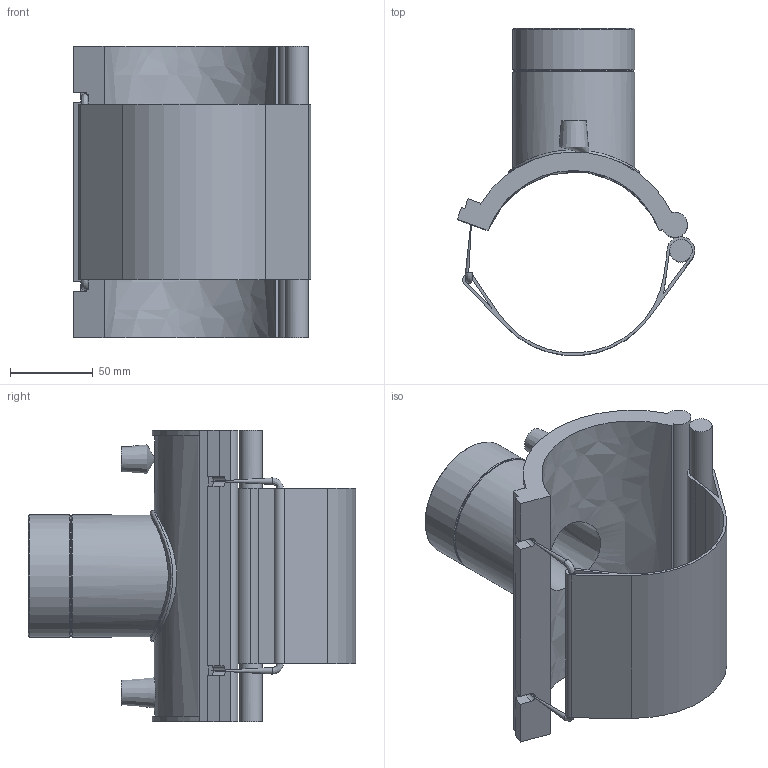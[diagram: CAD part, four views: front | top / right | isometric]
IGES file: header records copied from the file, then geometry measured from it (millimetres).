
Global section: file name: 493804110020.ipt; native system: Autodesk Inventor 2015; preprocessor: unknown; author: KIM; date: 20171106.094104; units: millimetre
Bounding box: 143.34 x 197.41 x 176 mm (x, y, z)
Volume: 530968 mm3; surface area: 161674.1 mm2
Topology: 2 solids, 3 shells, 78 faces, 192 edges, 126 vertices
Faces by surface type: plane 42, cylinder 19, revolution 11, cone 5, bspline 1
Full cylindrical faces by diameter (mm): 3.96 x2, 4 x2, 13.454 x1, 72.653 x1, 73.653 x2, 79.318 x1
